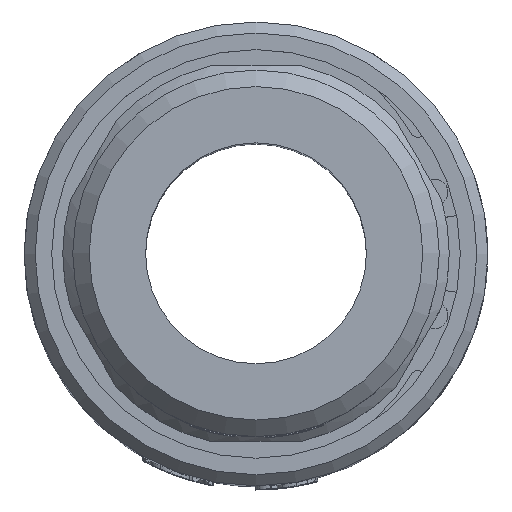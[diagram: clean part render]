
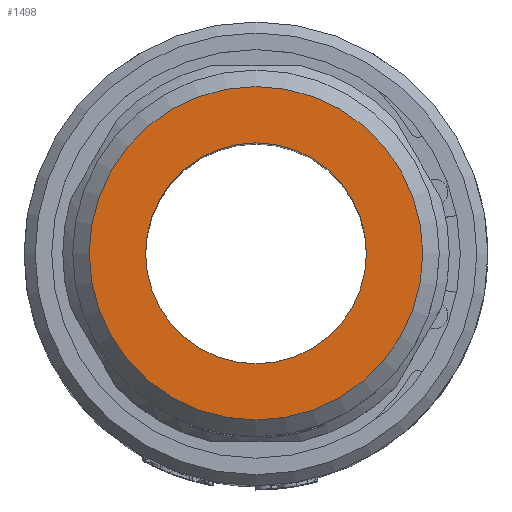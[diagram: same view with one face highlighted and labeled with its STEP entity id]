
A CAD part, top view. The second image highlights one B-rep face of the part: STEP entity #1498.
In plain terms, the highlighted planar face has unit normal (0, 0, 1).
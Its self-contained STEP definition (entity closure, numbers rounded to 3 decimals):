
#200=FACE_BOUND('',#3443,.T.);
#201=FACE_BOUND('',#3444,.T.);
#861=CIRCLE('',#15417,10.);
#869=CIRCLE('',#15433,15.1);
#1498=ADVANCED_FACE('',(#200,#201),#1981,.T.);
#1981=PLANE('',#15435);
#3443=EDGE_LOOP('',(#7554));
#3444=EDGE_LOOP('',(#7555));
#7554=ORIENTED_EDGE('',*,*,#12339,.T.);
#7555=ORIENTED_EDGE('',*,*,#12330,.T.);
#10265=VERTEX_POINT('',#29358);
#10273=VERTEX_POINT('',#29383);
#12330=EDGE_CURVE('',#10265,#10265,#861,.T.);
#12339=EDGE_CURVE('',#10273,#10273,#869,.T.);
#15417=AXIS2_PLACEMENT_3D('',#29357,#16959,#16960);
#15433=AXIS2_PLACEMENT_3D('',#29382,#16992,#16993);
#15435=AXIS2_PLACEMENT_3D('',#29385,#16996,#16997);
#16959=DIRECTION('',(0.,0.,-1.));
#16960=DIRECTION('',(1.,0.,0.));
#16992=DIRECTION('',(0.,0.,1.));
#16993=DIRECTION('',(1.,0.,0.));
#16996=DIRECTION('',(0.,0.,1.));
#16997=DIRECTION('',(1.,0.,0.));
#29357=CARTESIAN_POINT('',(0.,0.,80.));
#29358=CARTESIAN_POINT('',(10.,0.,80.));
#29382=CARTESIAN_POINT('',(0.,0.,80.));
#29383=CARTESIAN_POINT('',(15.1,0.,80.));
#29385=CARTESIAN_POINT('',(0.,0.,80.));
